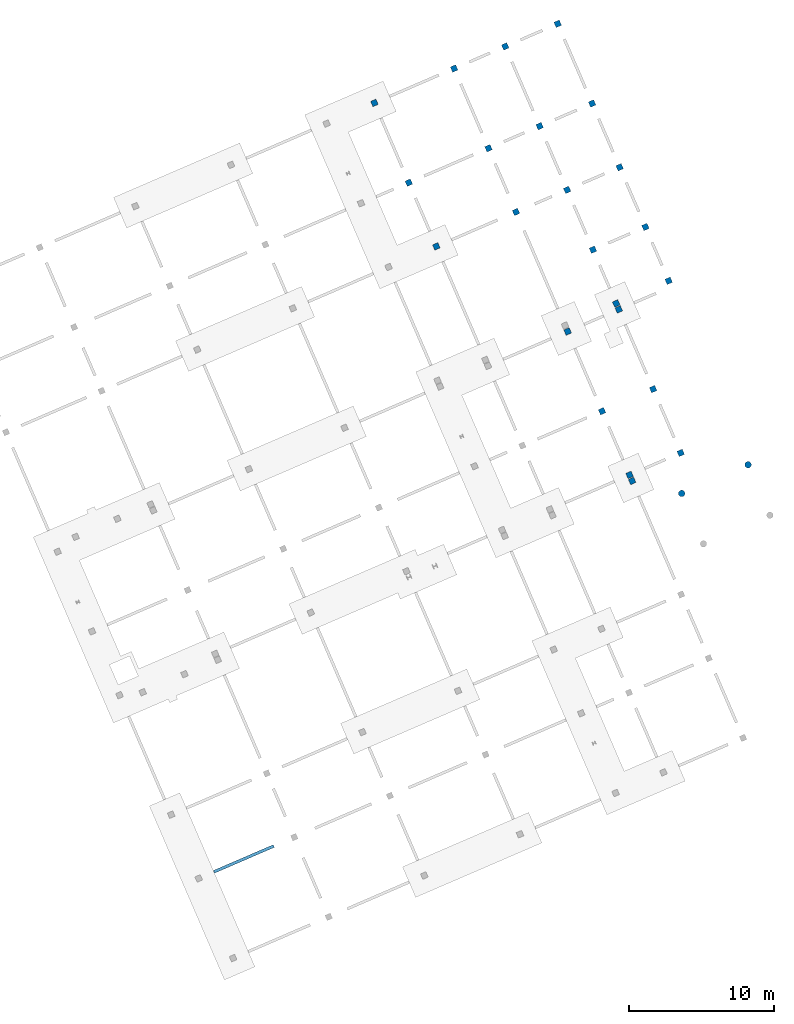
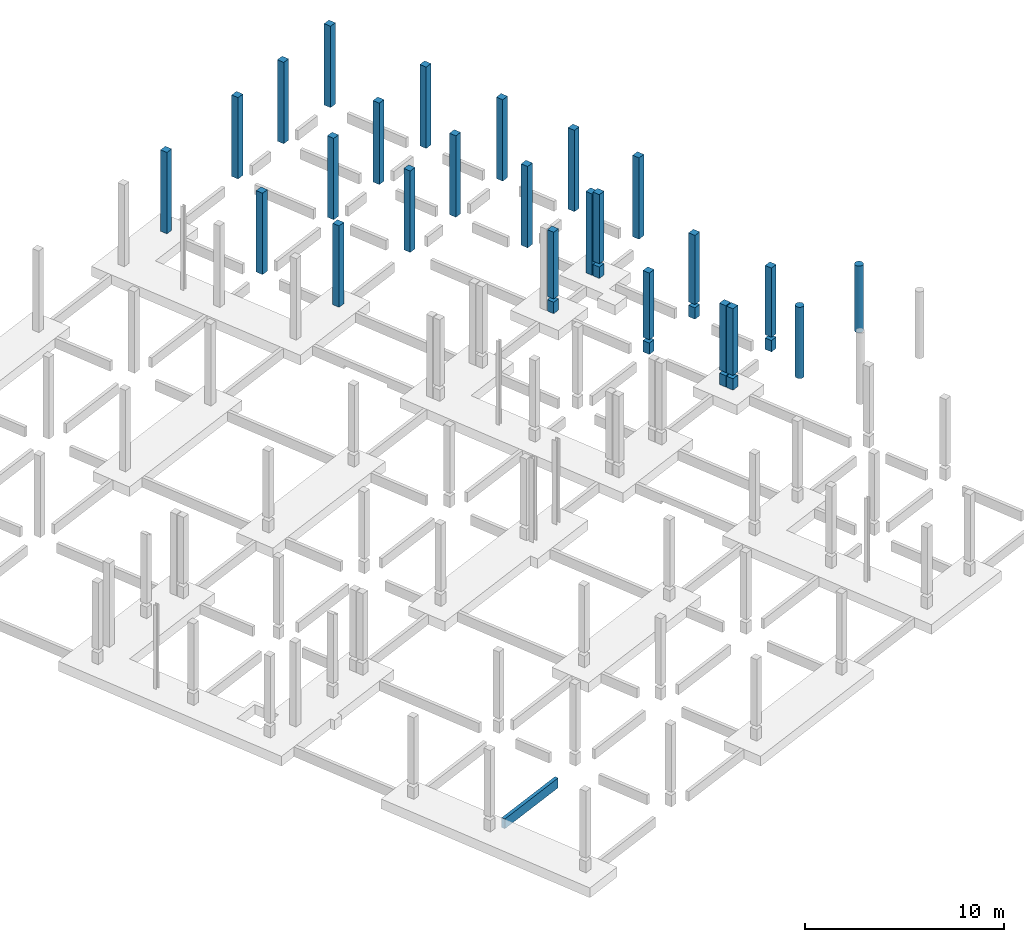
# One storey, part 7 of 11: 25 columns, 1 beam.
"""IFC4 building model written with IfcOpenShell, lengths in metres."""

from ifc_helpers import new_model, entity, si_unit, converted_unit, derived_unit, direction, frame, origin, place, context, subcontext, project, spatial, arc, indexed_curve, outline, extrude, source, transform, mapped, material, type_object, type_shapes, element, save


model = new_model("IFC4")

# Units and contexts
model_context = context("Model", 3, precision=1e-05, world=origin(), true_north=direction((6.12323399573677e-17, 1.0)))
body_context = subcontext(model_context, "Body", "Model", "MODEL_VIEW")
ifc_project = project(units=[si_unit("LENGTHUNIT", "METRE"), si_unit("AREAUNIT", "SQUARE_METRE"), si_unit("VOLUMEUNIT", "CUBIC_METRE"), converted_unit("PLANEANGLEUNIT", "DEGREE", entity("IfcPlaneAngleMeasure", 0.0174532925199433), si_unit("PLANEANGLEUNIT", "RADIAN"), dimensions=[0, 0, 0, 0, 0, 0, 0]), si_unit("MASSUNIT", "GRAM", prefix="KILO"), derived_unit("MOMENTOFINERTIAUNIT", [(si_unit("LENGTHUNIT", "METRE"), 4)]), derived_unit("LINEARFORCEUNIT", [(si_unit("MASSUNIT", "GRAM", prefix="KILO"), 1), (si_unit("TIMEUNIT", "SECOND"), -2)]), derived_unit("WARPINGCONSTANTUNIT", [(si_unit("LENGTHUNIT", "METRE"), 6)]), derived_unit("THERMALTRANSMITTANCEUNIT", [(si_unit("MASSUNIT", "GRAM", prefix="KILO"), 1), (si_unit("THERMODYNAMICTEMPERATUREUNIT", "KELVIN"), -1), (si_unit("TIMEUNIT", "SECOND"), -3)]), derived_unit("USERDEFINED", [(si_unit("MASSUNIT", "GRAM", prefix="KILO"), 1), (si_unit("TIMEUNIT", "SECOND"), -2), (si_unit("THERMODYNAMICTEMPERATUREUNIT", "KELVIN"), -1)]), derived_unit("THERMALRESISTANCEUNIT", [(si_unit("MASSUNIT", "GRAM", prefix="KILO"), -1), (si_unit("TIMEUNIT", "SECOND"), 3), (si_unit("THERMODYNAMICTEMPERATUREUNIT", "KELVIN"), 1)])], contexts=[model_context])

# Site, building, storey
site_placement = place(None, origin())
site = spatial("IfcSite", under=ifc_project, at=site_placement, Name="Default", CompositionType="ELEMENT")
building_placement = place(site_placement, frame((12.6613425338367, -82.5732315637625, 317.15), z_axis=(0.0, 0.0, 1.0), x_axis=(-0.396377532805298, 0.918087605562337, 0.0)))
building = spatial("IfcBuilding", under=site, at=building_placement, Name="CESFAM Coyhaique", CompositionType="ELEMENT")
storey_placement = place(building_placement, frame((0.0, 0.0, -0.950000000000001)))
storey = spatial("IfcBuildingStorey", under=building, at=storey_placement, Name="d_Fundaciones", CompositionType="ELEMENT", Elevation=-0.950000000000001)

# Columns
ifc_material = material(Name="HA")
column_type_1 = type_object("IfcColumnType", Name="M_Concrete-Square-Column:400 x 400mm", PredefinedType="COLUMN", material=ifc_material)
shared_shape_1 = source(origin(), body_context, "Body", "SweptSolid", [
    extrude(outline(indexed_curve([(-0.199999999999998, -0.200000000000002), (0.200000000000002, -0.200000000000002), (0.200000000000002, 0.199999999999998), (-0.199999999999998, 0.199999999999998), (-0.199999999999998, -0.200000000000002)], self_intersect=False)), frame((23.9688534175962, -21.197149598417, -0.950000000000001), z_axis=(0.0, 0.0, 1.0), x_axis=(-1.0, 0.0, 0.0)), (0.0, 0.0, 1.0), 0.7),
    extrude(outline(indexed_curve([(-0.199999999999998, -0.200000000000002), (0.200000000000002, -0.200000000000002), (0.200000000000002, 0.199999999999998), (-0.199999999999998, 0.199999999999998), (-0.199999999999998, -0.200000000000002)], self_intersect=False)), frame((23.9688534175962, -21.197149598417, -0.0500000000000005), z_axis=(0.0, 0.0, 1.0), x_axis=(-1.0, 0.0, 0.0)), (0.0, 0.0, 1.0), 4.10000000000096),
])
type_shapes(column_type_1, [shared_shape_1])
column_1_placement = place(storey_placement, frame((0.0, 0.0, 0.950000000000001)))
element("IfcColumn", 1, at=column_1_placement, inside=storey, type_object=column_type_1, Name="M_Concrete-Square-Column:400 x 400mm", ObjectType="M_Concrete-Square-Column:400 x 400mm", PredefinedType="COLUMN", context=body_context, shape_type="MappedRepresentation", body=[
    mapped(shared_shape_1, transform((0.0, 0.0, 0.0), scale=1.0)),
])
column_type_2 = type_object("IfcColumnType", Name="M_Concrete-Square-Column:400 x 400mm", PredefinedType="COLUMN", material=ifc_material)
shared_shape_2 = source(origin(), body_context, "Body", "SweptSolid", [
    extrude(outline(indexed_curve([(-0.200000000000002, -0.200000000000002), (0.199999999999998, -0.200000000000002), (0.199999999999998, 0.199999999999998), (-0.200000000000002, 0.199999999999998), (-0.200000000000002, -0.200000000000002)], self_intersect=False)), frame((28.7688534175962, -21.197149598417, -0.950000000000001), z_axis=(0.0, 0.0, 1.0), x_axis=(-1.0, 0.0, 0.0)), (0.0, 0.0, 1.0), 0.7),
    extrude(outline(indexed_curve([(-0.200000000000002, -0.200000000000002), (0.199999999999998, -0.200000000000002), (0.199999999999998, 0.199999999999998), (-0.200000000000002, 0.199999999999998), (-0.200000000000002, -0.200000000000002)], self_intersect=False)), frame((28.7688534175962, -21.197149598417, -0.0500000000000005), z_axis=(0.0, 0.0, 1.0), x_axis=(-1.0, 0.0, 0.0)), (0.0, 0.0, 1.0), 4.10000000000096),
])
type_shapes(column_type_2, [shared_shape_2])
column_2_placement = place(storey_placement, frame((0.0, 0.0, 0.950000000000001)))
element("IfcColumn", 2, at=column_2_placement, inside=storey, type_object=column_type_2, Name="M_Concrete-Square-Column:400 x 400mm", ObjectType="M_Concrete-Square-Column:400 x 400mm", PredefinedType="COLUMN", context=body_context, shape_type="MappedRepresentation", body=[
    mapped(shared_shape_2, transform((0.0, 0.0, 0.0), scale=1.0)),
])
column_type_3 = type_object("IfcColumnType", Name="M_Concrete-Square-Column:400 x 400mm", PredefinedType="COLUMN", material=ifc_material)
shared_shape_3 = source(origin(), body_context, "Body", "SweptSolid", [
    extrude(outline(indexed_curve([(-0.199999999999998, -0.200000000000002), (0.200000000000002, -0.200000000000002), (0.200000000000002, 0.199999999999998), (-0.199999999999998, 0.199999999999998), (-0.199999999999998, -0.200000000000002)], self_intersect=False)), frame((34.7688534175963, -21.197149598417, -0.950000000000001), z_axis=(0.0, 0.0, 1.0), x_axis=(-1.0, 0.0, 0.0)), (0.0, 0.0, 1.0), 0.7),
    extrude(outline(indexed_curve([(-0.199999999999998, -0.200000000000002), (0.200000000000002, -0.200000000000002), (0.200000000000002, 0.199999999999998), (-0.199999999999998, 0.199999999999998), (-0.199999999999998, -0.200000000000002)], self_intersect=False)), frame((34.7688534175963, -21.197149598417, -0.0500000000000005), z_axis=(0.0, 0.0, 1.0), x_axis=(-1.0, 0.0, 0.0)), (0.0, 0.0, 1.0), 4.10000000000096),
])
type_shapes(column_type_3, [shared_shape_3])
column_3_placement = place(storey_placement, frame((0.0, 0.0, 0.950000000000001)))
element("IfcColumn", 3, at=column_3_placement, inside=storey, type_object=column_type_3, Name="M_Concrete-Square-Column:400 x 400mm", ObjectType="M_Concrete-Square-Column:400 x 400mm", PredefinedType="COLUMN", context=body_context, shape_type="MappedRepresentation", body=[
    mapped(shared_shape_3, transform((0.0, 0.0, 0.0), scale=1.0)),
])
column_type_4 = type_object("IfcColumnType", Name="M_Concrete-Square-Column:400 x 400mm", PredefinedType="COLUMN", material=ifc_material)
shared_shape_4 = source(origin(), body_context, "Body", "SweptSolid", [
    extrude(outline(indexed_curve([(-0.199999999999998, -0.200000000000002), (0.199999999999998, -0.200000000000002), (0.199999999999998, 0.199999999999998), (-0.199999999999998, 0.199999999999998), (-0.199999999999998, -0.200000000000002)], self_intersect=False)), frame((43.7688534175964, -21.197149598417, -0.950000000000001), z_axis=(0.0, 0.0, 1.0), x_axis=(-1.0, 0.0, 0.0)), (0.0, 0.0, 1.0), 5.00000000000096),
])
type_shapes(column_type_4, [shared_shape_4])
column_4_placement = place(storey_placement, frame((0.0, 0.0, 0.950000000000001)))
element("IfcColumn", 4, at=column_4_placement, inside=storey, type_object=column_type_4, Name="M_Concrete-Square-Column:400 x 400mm", ObjectType="M_Concrete-Square-Column:400 x 400mm", PredefinedType="COLUMN", context=body_context, shape_type="MappedRepresentation", body=[
    mapped(shared_shape_4, transform((0.0, 0.0, 0.0), scale=1.0)),
])
column_type_5 = type_object("IfcColumnType", Name="M_Concrete-Square-Column:400 x 400mm", PredefinedType="COLUMN", material=ifc_material)
shared_shape_5 = source(origin(), body_context, "Body", "SweptSolid", [
    extrude(outline(indexed_curve([(-0.199999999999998, -0.200000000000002), (0.199999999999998, -0.200000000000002), (0.199999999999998, 0.199999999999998), (-0.199999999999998, 0.199999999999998), (-0.199999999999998, -0.200000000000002)], self_intersect=False)), frame((48.5688534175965, -21.1971495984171, -0.950000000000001), z_axis=(0.0, 0.0, 1.0), x_axis=(-1.0, 0.0, 0.0)), (0.0, 0.0, 1.0), 5.00000000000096),
])
type_shapes(column_type_5, [shared_shape_5])
column_5_placement = place(storey_placement, frame((0.0, 0.0, 0.950000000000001)))
element("IfcColumn", 5, at=column_5_placement, inside=storey, type_object=column_type_5, Name="M_Concrete-Square-Column:400 x 400mm", ObjectType="M_Concrete-Square-Column:400 x 400mm", PredefinedType="COLUMN", context=body_context, shape_type="MappedRepresentation", body=[
    mapped(shared_shape_5, transform((0.0, 0.0, 0.0), scale=1.0)),
])
column_type_6 = type_object("IfcColumnType", Name="M_Concrete-Square-Column:400 x 400mm", PredefinedType="COLUMN", material=ifc_material)
shared_shape_6 = source(origin(), body_context, "Body", "SweptSolid", [
    extrude(outline(indexed_curve([(-0.199999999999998, -0.200000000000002), (0.199999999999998, -0.200000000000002), (0.199999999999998, 0.199999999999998), (-0.199999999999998, 0.199999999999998), (-0.199999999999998, -0.200000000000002)], self_intersect=False)), frame((54.5688534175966, -21.1971495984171, -0.950000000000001), z_axis=(0.0, 0.0, 1.0), x_axis=(-1.0, 0.0, 0.0)), (0.0, 0.0, 1.0), 5.00000000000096),
])
type_shapes(column_type_6, [shared_shape_6])
column_6_placement = place(storey_placement, frame((0.0, 0.0, 0.950000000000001)))
element("IfcColumn", 6, at=column_6_placement, inside=storey, type_object=column_type_6, Name="M_Concrete-Square-Column:400 x 400mm", ObjectType="M_Concrete-Square-Column:400 x 400mm", PredefinedType="COLUMN", context=body_context, shape_type="MappedRepresentation", body=[
    mapped(shared_shape_6, transform((0.0, 0.0, 0.0), scale=1.0)),
])
column_type_7 = type_object("IfcColumnType", Name="M_Concrete-Square-Column:400 x 400mm", PredefinedType="COLUMN", material=ifc_material)
shared_shape_7 = source(origin(), body_context, "Body", "SweptSolid", [
    extrude(outline(indexed_curve([(-0.199999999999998, -0.199999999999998), (0.199999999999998, -0.199999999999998), (0.199999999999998, 0.200000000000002), (-0.199999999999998, 0.200000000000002), (-0.199999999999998, -0.199999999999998)], self_intersect=False)), frame((43.7688534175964, -28.997149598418, -0.950000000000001), z_axis=(0.0, 0.0, 1.0), x_axis=(-1.0, 0.0, 0.0)), (0.0, 0.0, 1.0), 5.00000000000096),
])
type_shapes(column_type_7, [shared_shape_7])
column_7_placement = place(storey_placement, frame((0.0, 0.0, 0.950000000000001)))
element("IfcColumn", 7, at=column_7_placement, inside=storey, type_object=column_type_7, Name="M_Concrete-Square-Column:400 x 400mm", ObjectType="M_Concrete-Square-Column:400 x 400mm", PredefinedType="COLUMN", context=body_context, shape_type="MappedRepresentation", body=[
    mapped(shared_shape_7, transform((0.0, 0.0, 0.0), scale=1.0)),
])
column_type_8 = type_object("IfcColumnType", Name="M_Concrete-Square-Column:400 x 400mm", PredefinedType="COLUMN", material=ifc_material)
shared_shape_8 = source(origin(), body_context, "Body", "SweptSolid", [
    extrude(outline(indexed_curve([(-0.199999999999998, -0.199999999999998), (0.199999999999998, -0.199999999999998), (0.199999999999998, 0.200000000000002), (-0.199999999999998, 0.200000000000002), (-0.199999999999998, -0.199999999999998)], self_intersect=False)), frame((48.5688534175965, -28.9971495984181, -0.950000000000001), z_axis=(0.0, 0.0, 1.0), x_axis=(-1.0, 0.0, 0.0)), (0.0, 0.0, 1.0), 5.00000000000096),
])
type_shapes(column_type_8, [shared_shape_8])
column_8_placement = place(storey_placement, frame((0.0, 0.0, 0.950000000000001)))
element("IfcColumn", 8, at=column_8_placement, inside=storey, type_object=column_type_8, Name="M_Concrete-Square-Column:400 x 400mm", ObjectType="M_Concrete-Square-Column:400 x 400mm", PredefinedType="COLUMN", context=body_context, shape_type="MappedRepresentation", body=[
    mapped(shared_shape_8, transform((0.0, 0.0, 0.0), scale=1.0)),
])
column_type_9 = type_object("IfcColumnType", Name="M_Concrete-Square-Column:400 x 400mm", PredefinedType="COLUMN", material=ifc_material)
shared_shape_9 = source(origin(), body_context, "Body", "SweptSolid", [
    extrude(outline(indexed_curve([(-0.199999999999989, -0.199999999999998), (0.200000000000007, -0.199999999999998), (0.200000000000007, 0.200000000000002), (-0.199999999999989, 0.200000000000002), (-0.199999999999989, -0.199999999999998)], self_intersect=False)), frame((54.5688534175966, -28.9971495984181, -0.950000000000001), z_axis=(0.0, 0.0, 1.0), x_axis=(-1.0, 0.0, 0.0)), (0.0, 0.0, 1.0), 5.00000000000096),
])
type_shapes(column_type_9, [shared_shape_9])
column_9_placement = place(storey_placement, frame((0.0, 0.0, 0.950000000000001)))
element("IfcColumn", 9, at=column_9_placement, inside=storey, type_object=column_type_9, Name="M_Concrete-Square-Column:400 x 400mm", ObjectType="M_Concrete-Square-Column:400 x 400mm", PredefinedType="COLUMN", context=body_context, shape_type="MappedRepresentation", body=[
    mapped(shared_shape_9, transform((0.0, 0.0, 0.0), scale=1.0)),
])
column_type_10 = type_object("IfcColumnType", Name="M_Concrete-Square-Column:400 x 400mm", PredefinedType="COLUMN", material=ifc_material)
shared_shape_10 = source(origin(), body_context, "Body", "SweptSolid", [
    extrude(outline(indexed_curve([(-0.199999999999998, -0.2), (0.199999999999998, -0.2), (0.199999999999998, 0.2), (-0.199999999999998, 0.2), (-0.199999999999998, -0.2)], self_intersect=False)), frame((43.7688534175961, -15.1971495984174, -0.950000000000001), z_axis=(0.0, 0.0, 1.0), x_axis=(-1.0, 0.0, 0.0)), (0.0, 0.0, 1.0), 5.00000000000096),
])
type_shapes(column_type_10, [shared_shape_10])
column_10_placement = place(storey_placement, frame((0.0, 0.0, 0.950000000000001)))
element("IfcColumn", 10, at=column_10_placement, inside=storey, type_object=column_type_10, Name="M_Concrete-Square-Column:400 x 400mm", ObjectType="M_Concrete-Square-Column:400 x 400mm", PredefinedType="COLUMN", context=body_context, shape_type="MappedRepresentation", body=[
    mapped(shared_shape_10, transform((0.0, 0.0, 0.0), scale=1.0)),
])
column_type_11 = type_object("IfcColumnType", Name="M_Concrete-Square-Column:400 x 400mm", PredefinedType="COLUMN", material=ifc_material)
shared_shape_11 = source(origin(), body_context, "Body", "SweptSolid", [
    extrude(outline(indexed_curve([(-0.199999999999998, -0.2), (0.199999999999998, -0.2), (0.199999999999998, 0.2), (-0.199999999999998, 0.2), (-0.199999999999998, -0.2)], self_intersect=False)), frame((48.5688534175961, -15.1971495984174, -0.950000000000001), z_axis=(0.0, 0.0, 1.0), x_axis=(-1.0, 0.0, 0.0)), (0.0, 0.0, 1.0), 5.00000000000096),
])
type_shapes(column_type_11, [shared_shape_11])
column_11_placement = place(storey_placement, frame((0.0, 0.0, 0.950000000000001)))
element("IfcColumn", 11, at=column_11_placement, inside=storey, type_object=column_type_11, Name="M_Concrete-Square-Column:400 x 400mm", ObjectType="M_Concrete-Square-Column:400 x 400mm", PredefinedType="COLUMN", context=body_context, shape_type="MappedRepresentation", body=[
    mapped(shared_shape_11, transform((0.0, 0.0, 0.0), scale=1.0)),
])
column_type_12 = type_object("IfcColumnType", Name="M_Concrete-Square-Column:400 x 400mm", PredefinedType="COLUMN", material=ifc_material)
shared_shape_12 = source(origin(), body_context, "Body", "SweptSolid", [
    extrude(outline(indexed_curve([(-0.199999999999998, -0.2), (0.199999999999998, -0.2), (0.199999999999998, 0.2), (-0.199999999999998, 0.2), (-0.199999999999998, -0.2)], self_intersect=False)), frame((54.5688534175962, -15.1971495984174, -0.950000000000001), z_axis=(0.0, 0.0, 1.0), x_axis=(-1.0, 0.0, 0.0)), (0.0, 0.0, 1.0), 5.00000000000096),
])
type_shapes(column_type_12, [shared_shape_12])
column_12_placement = place(storey_placement, frame((0.0, 0.0, 0.950000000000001)))
element("IfcColumn", 12, at=column_12_placement, inside=storey, type_object=column_type_12, Name="M_Concrete-Square-Column:400 x 400mm", ObjectType="M_Concrete-Square-Column:400 x 400mm", PredefinedType="COLUMN", context=body_context, shape_type="MappedRepresentation", body=[
    mapped(shared_shape_12, transform((0.0, 0.0, 0.0), scale=1.0)),
])
column_type_13 = type_object("IfcColumnType", Name="M_Concrete-Square-Column:400 x 400mm", PredefinedType="COLUMN", material=ifc_material)
shared_shape_13 = source(origin(), body_context, "Body", "SweptSolid", [
    extrude(outline(indexed_curve([(-0.200000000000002, -0.200000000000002), (0.199999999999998, -0.200000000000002), (0.199999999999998, 0.199999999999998), (-0.200000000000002, 0.199999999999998), (-0.200000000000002, -0.200000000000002)], self_intersect=False)), frame((28.7688534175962, -25.0471495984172, -0.950000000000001), z_axis=(0.0, 0.0, 1.0), x_axis=(-1.0, 0.0, 0.0)), (0.0, 0.0, 1.0), 0.7),
    extrude(outline(indexed_curve([(-0.200000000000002, -0.200000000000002), (0.199999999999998, -0.199999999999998), (0.199999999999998, 0.199999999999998), (-0.200000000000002, 0.199999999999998), (-0.200000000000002, -0.200000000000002)], self_intersect=False)), frame((28.7688534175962, -25.0471495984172, -0.0500000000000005), z_axis=(0.0, 0.0, 1.0), x_axis=(-1.0, 0.0, 0.0)), (0.0, 0.0, 1.0), 4.25000000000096),
])
type_shapes(column_type_13, [shared_shape_13])
column_13_placement = place(storey_placement, frame((0.0, 0.0, 0.950000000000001)))
element("IfcColumn", 13, at=column_13_placement, inside=storey, type_object=column_type_13, Name="M_Concrete-Square-Column:400 x 400mm", ObjectType="M_Concrete-Square-Column:400 x 400mm", PredefinedType="COLUMN", context=body_context, shape_type="MappedRepresentation", body=[
    mapped(shared_shape_13, transform((0.0, 0.0, 0.0), scale=1.0)),
])
column_type_14 = type_object("IfcColumnType", Name="M_Concrete-Square-Column:400 x 400mm", PredefinedType="COLUMN", material=ifc_material)
shared_shape_14 = source(origin(), body_context, "Body", "SweptSolid", [
    extrude(outline(indexed_curve([(-0.199999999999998, -0.200000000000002), (0.200000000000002, -0.200000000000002), (0.200000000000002, 0.199999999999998), (-0.199999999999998, 0.199999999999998), (-0.199999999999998, -0.200000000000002)], self_intersect=False)), frame((23.9688534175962, -25.0471495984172, -0.950000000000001), z_axis=(0.0, 0.0, 1.0), x_axis=(-1.0, 0.0, 0.0)), (0.0, 0.0, 1.0), 0.7),
    extrude(outline(indexed_curve([(-0.199999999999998, -0.200000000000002), (0.200000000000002, -0.199999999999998), (0.200000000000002, 0.199999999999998), (-0.199999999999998, 0.199999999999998), (-0.199999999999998, -0.200000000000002)], self_intersect=False)), frame((23.9688534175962, -25.0471495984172, -0.0500000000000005), z_axis=(0.0, 0.0, 1.0), x_axis=(-1.0, 0.0, 0.0)), (0.0, 0.0, 1.0), 4.25000000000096),
])
type_shapes(column_type_14, [shared_shape_14])
column_14_placement = place(storey_placement, frame((0.0, 0.0, 0.950000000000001)))
element("IfcColumn", 14, at=column_14_placement, inside=storey, type_object=column_type_14, Name="M_Concrete-Square-Column:400 x 400mm", ObjectType="M_Concrete-Square-Column:400 x 400mm", PredefinedType="COLUMN", context=body_context, shape_type="MappedRepresentation", body=[
    mapped(shared_shape_14, transform((0.0, 0.0, 0.0), scale=1.0)),
])
column_type_15 = type_object("IfcColumnType", Name="M_Concrete-Square-Column:400 x 400mm", PredefinedType="COLUMN", material=ifc_material)
shared_shape_15 = source(origin(), body_context, "Body", "SweptSolid", [
    extrude(outline(indexed_curve([(-0.199999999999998, -0.200000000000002), (0.200000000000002, -0.200000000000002), (0.200000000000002, 0.199999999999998), (-0.199999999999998, 0.199999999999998), (-0.199999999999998, -0.200000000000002)], self_intersect=False)), frame((34.7688534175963, -25.0471495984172, -0.950000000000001), z_axis=(0.0, 0.0, 1.0), x_axis=(-1.0, 0.0, 0.0)), (0.0, 0.0, 1.0), 0.7),
    extrude(outline(indexed_curve([(-0.199999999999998, -0.200000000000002), (0.200000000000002, -0.199999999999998), (0.200000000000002, 0.199999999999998), (-0.199999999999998, 0.199999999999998), (-0.199999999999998, -0.200000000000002)], self_intersect=False)), frame((34.7688534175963, -25.0471495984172, -0.0500000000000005), z_axis=(0.0, 0.0, 1.0), x_axis=(-1.0, 0.0, 0.0)), (0.0, 0.0, 1.0), 4.25000000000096),
])
type_shapes(column_type_15, [shared_shape_15])
column_15_placement = place(storey_placement, frame((0.0, 0.0, 0.950000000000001)))
element("IfcColumn", 15, at=column_15_placement, inside=storey, type_object=column_type_15, Name="M_Concrete-Square-Column:400 x 400mm", ObjectType="M_Concrete-Square-Column:400 x 400mm", PredefinedType="COLUMN", context=body_context, shape_type="MappedRepresentation", body=[
    mapped(shared_shape_15, transform((0.0, 0.0, 0.0), scale=1.0)),
])
column_type_16 = type_object("IfcColumnType", Name="M_Concrete-Square-Column:400 x 400mm", PredefinedType="COLUMN", material=ifc_material)
shared_shape_16 = source(origin(), body_context, "Body", "SweptSolid", [
    extrude(outline(indexed_curve([(-0.199999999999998, -0.200000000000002), (0.199999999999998, -0.200000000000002), (0.199999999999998, 0.199999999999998), (-0.199999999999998, 0.199999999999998), (-0.199999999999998, -0.200000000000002)], self_intersect=False)), frame((43.7688534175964, -25.0471495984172, -0.950000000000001), z_axis=(0.0, 0.0, 1.0), x_axis=(-1.0, 0.0, 0.0)), (0.0, 0.0, 1.0), 5.00000000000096),
])
type_shapes(column_type_16, [shared_shape_16])
column_16_placement = place(storey_placement, frame((0.0, 0.0, 0.950000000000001)))
element("IfcColumn", 16, at=column_16_placement, inside=storey, type_object=column_type_16, Name="M_Concrete-Square-Column:400 x 400mm", ObjectType="M_Concrete-Square-Column:400 x 400mm", PredefinedType="COLUMN", context=body_context, shape_type="MappedRepresentation", body=[
    mapped(shared_shape_16, transform((0.0, 0.0, 0.0), scale=1.0)),
])
column_type_17 = type_object("IfcColumnType", Name="M_Concrete-Square-Column:400 x 400mm", PredefinedType="COLUMN", material=ifc_material)
shared_shape_17 = source(origin(), body_context, "Body", "SweptSolid", [
    extrude(outline(indexed_curve([(-0.199999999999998, -0.200000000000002), (0.199999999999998, -0.200000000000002), (0.199999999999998, 0.199999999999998), (-0.199999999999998, 0.199999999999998), (-0.199999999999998, -0.200000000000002)], self_intersect=False)), frame((48.5688534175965, -25.0471495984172, -0.950000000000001), z_axis=(0.0, 0.0, 1.0), x_axis=(-1.0, 0.0, 0.0)), (0.0, 0.0, 1.0), 5.00000000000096),
])
type_shapes(column_type_17, [shared_shape_17])
column_17_placement = place(storey_placement, frame((0.0, 0.0, 0.950000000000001)))
element("IfcColumn", 17, at=column_17_placement, inside=storey, type_object=column_type_17, Name="M_Concrete-Square-Column:400 x 400mm", ObjectType="M_Concrete-Square-Column:400 x 400mm", PredefinedType="COLUMN", context=body_context, shape_type="MappedRepresentation", body=[
    mapped(shared_shape_17, transform((0.0, 0.0, 0.0), scale=1.0)),
])
column_type_18 = type_object("IfcColumnType", Name="M_Concrete-Square-Column:400 x 400mm", PredefinedType="COLUMN", material=ifc_material)
shared_shape_18 = source(origin(), body_context, "Body", "SweptSolid", [
    extrude(outline(indexed_curve([(-0.199999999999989, -0.200000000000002), (0.200000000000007, -0.200000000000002), (0.200000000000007, 0.199999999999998), (-0.199999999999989, 0.199999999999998), (-0.199999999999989, -0.200000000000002)], self_intersect=False)), frame((54.5688534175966, -25.0471495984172, -0.950000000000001), z_axis=(0.0, 0.0, 1.0), x_axis=(-1.0, 0.0, 0.0)), (0.0, 0.0, 1.0), 5.00000000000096),
])
type_shapes(column_type_18, [shared_shape_18])
column_18_placement = place(storey_placement, frame((0.0, 0.0, 0.950000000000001)))
element("IfcColumn", 18, at=column_18_placement, inside=storey, type_object=column_type_18, Name="M_Concrete-Square-Column:400 x 400mm", ObjectType="M_Concrete-Square-Column:400 x 400mm", PredefinedType="COLUMN", context=body_context, shape_type="MappedRepresentation", body=[
    mapped(shared_shape_18, transform((0.0, 0.0, 0.0), scale=1.0)),
])
column_type_19 = type_object("IfcColumnType", Name="M_Concrete-Square-Column:400 x 400mm", PredefinedType="COLUMN", material=ifc_material)
shared_shape_19 = source(origin(), body_context, "Body", "SweptSolid", [
    extrude(outline(indexed_curve([(-0.199999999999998, -0.200000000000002), (0.200000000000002, -0.200000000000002), (0.200000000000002, 0.199999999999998), (-0.199999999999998, 0.199999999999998), (-0.199999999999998, -0.200000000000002)], self_intersect=False)), frame((35.2188534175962, -28.997149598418, -0.950000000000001), z_axis=(0.0, 0.0, 1.0), x_axis=(-1.0, 0.0, 0.0)), (0.0, 0.0, 1.0), 5.00000000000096),
])
type_shapes(column_type_19, [shared_shape_19])
column_19_placement = place(storey_placement, frame((0.0, 0.0, 0.950000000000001)))
element("IfcColumn", 19, at=column_19_placement, inside=storey, type_object=column_type_19, Name="M_Concrete-Square-Column:400 x 400mm", ObjectType="M_Concrete-Square-Column:400 x 400mm", PredefinedType="COLUMN", context=body_context, shape_type="MappedRepresentation", body=[
    mapped(shared_shape_19, transform((0.0, 0.0, 0.0), scale=1.0)),
])
column_type_20 = type_object("IfcColumnType", Name="M_Concrete-Square-Column:400 x 400mm", PredefinedType="COLUMN", material=ifc_material)
shared_shape_20 = source(origin(), body_context, "Body", "SweptSolid", [
    extrude(outline(indexed_curve([(-0.200000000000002, -0.200000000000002), (0.199999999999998, -0.200000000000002), (0.199999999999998, 0.199999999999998), (-0.200000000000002, 0.199999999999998), (-0.200000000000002, -0.200000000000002)], self_intersect=False)), frame((35.2188534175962, -25.0471495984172, -0.950000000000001), z_axis=(0.0, 0.0, 1.0), x_axis=(-1.0, 0.0, 0.0)), (0.0, 0.0, 1.0), 5.00000000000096),
])
type_shapes(column_type_20, [shared_shape_20])
column_20_placement = place(storey_placement, frame((0.0, 0.0, 0.950000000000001)))
element("IfcColumn", 20, at=column_20_placement, inside=storey, type_object=column_type_20, Name="M_Concrete-Square-Column:400 x 400mm", ObjectType="M_Concrete-Square-Column:400 x 400mm", PredefinedType="COLUMN", context=body_context, shape_type="MappedRepresentation", body=[
    mapped(shared_shape_20, transform((0.0, 0.0, 0.0), scale=1.0)),
])
column_type_21 = type_object("IfcColumnType", Name="M_Concrete-Square-Column:400 x 400mm", PredefinedType="COLUMN", material=ifc_material)
shared_shape_21 = source(origin(), body_context, "Body", "SweptSolid", [
    extrude(outline(indexed_curve([(-0.199999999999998, -0.199999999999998), (0.199999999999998, -0.199999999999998), (0.199999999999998, 0.200000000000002), (-0.199999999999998, 0.200000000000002), (-0.199999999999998, -0.199999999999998)], self_intersect=False)), frame((39.2688534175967, -28.997149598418, -0.950000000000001), z_axis=(0.0, 0.0, 1.0), x_axis=(-1.0, 0.0, 0.0)), (0.0, 0.0, 1.0), 5.00000000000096),
])
type_shapes(column_type_21, [shared_shape_21])
column_21_placement = place(storey_placement, frame((0.0, 0.0, 0.950000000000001)))
element("IfcColumn", 21, at=column_21_placement, inside=storey, type_object=column_type_21, Name="M_Concrete-Square-Column:400 x 400mm", ObjectType="M_Concrete-Square-Column:400 x 400mm", PredefinedType="COLUMN", context=body_context, shape_type="MappedRepresentation", body=[
    mapped(shared_shape_21, transform((0.0, 0.0, 0.0), scale=1.0)),
])
column_type_22 = type_object("IfcColumnType", Name="M_Concrete-Square-Column:400 x 400mm", PredefinedType="COLUMN", material=ifc_material)
shared_shape_22 = source(origin(), body_context, "Body", "SweptSolid", [
    extrude(outline(indexed_curve([(-0.199999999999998, -0.200000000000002), (0.199999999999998, -0.200000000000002), (0.199999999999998, 0.199999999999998), (-0.199999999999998, 0.199999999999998), (-0.199999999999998, -0.200000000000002)], self_intersect=False)), frame((39.2688534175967, -25.0471495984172, -0.950000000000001), z_axis=(0.0, 0.0, 1.0), x_axis=(-1.0, 0.0, 0.0)), (0.0, 0.0, 1.0), 5.00000000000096),
])
type_shapes(column_type_22, [shared_shape_22])
column_22_placement = place(storey_placement, frame((0.0, 0.0, 0.950000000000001)))
element("IfcColumn", 22, at=column_22_placement, inside=storey, type_object=column_type_22, Name="M_Concrete-Square-Column:400 x 400mm", ObjectType="M_Concrete-Square-Column:400 x 400mm", PredefinedType="COLUMN", context=body_context, shape_type="MappedRepresentation", body=[
    mapped(shared_shape_22, transform((0.0, 0.0, 0.0), scale=1.0)),
])
column_type_23 = type_object("IfcColumnType", Name="M_Concrete-Square-Column:400 x 400mm", PredefinedType="COLUMN", material=ifc_material)
shared_shape_23 = source(origin(), body_context, "Body", "SweptSolid", [
    extrude(outline(indexed_curve([(-0.200000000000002, -0.200000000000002), (0.199999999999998, -0.200000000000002), (0.199999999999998, 0.199999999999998), (-0.200000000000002, 0.199999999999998), (-0.200000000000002, -0.200000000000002)], self_intersect=False)), frame((23.5188534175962, -21.197149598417, -0.950000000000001), z_axis=(0.0, 0.0, 1.0), x_axis=(-1.0, 0.0, 0.0)), (0.0, 0.0, 1.0), 0.7),
    extrude(outline(indexed_curve([(-0.200000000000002, -0.200000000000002), (0.199999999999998, -0.199999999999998), (0.199999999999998, 0.199999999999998), (-0.200000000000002, 0.199999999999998), (-0.200000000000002, -0.200000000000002)], self_intersect=False)), frame((23.5188534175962, -21.197149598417, -0.0500000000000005), z_axis=(0.0, 0.0, 1.0), x_axis=(-1.0, 0.0, 0.0)), (0.0, 0.0, 1.0), 4.10000000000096),
])
type_shapes(column_type_23, [shared_shape_23])
column_23_placement = place(storey_placement, frame((0.0, 0.0, 0.950000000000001)))
element("IfcColumn", 23, at=column_23_placement, inside=storey, type_object=column_type_23, Name="M_Concrete-Square-Column:400 x 400mm", ObjectType="M_Concrete-Square-Column:400 x 400mm", PredefinedType="COLUMN", context=body_context, shape_type="MappedRepresentation", body=[
    mapped(shared_shape_23, transform((0.0, 0.0, 0.0), scale=1.0)),
])
column_type_24 = type_object("IfcColumnType", Name="M_Concrete-Round-Column:450mm", PredefinedType="COLUMN", material=ifc_material)
shared_shape_24 = source(origin(), body_context, "Body", "SweptSolid", [
    extrude(outline(indexed_curve([(-0.224999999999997, 0.0), (0.0, -0.224999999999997), (0.224999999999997, 0.0), (0.0, 0.224999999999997)], segments=[arc(1, 2, 3), arc(3, 4, 1)], self_intersect=False)), frame((21.3688534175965, -28.9973206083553, -0.950000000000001)), (0.0, 0.0, 1.0), 4.10000000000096),
])
type_shapes(column_type_24, [shared_shape_24])
column_24_placement = place(storey_placement, frame((0.0, 0.0, 0.950000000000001)))
element("IfcColumn", 24, at=column_24_placement, inside=storey, type_object=column_type_24, Name="M_Concrete-Round-Column:450mm", ObjectType="M_Concrete-Round-Column:450mm", PredefinedType="COLUMN", context=body_context, shape_type="MappedRepresentation", body=[
    mapped(shared_shape_24, transform((0.0, 0.0, 0.0), scale=1.0)),
])
column_type_25 = type_object("IfcColumnType", Name="M_Concrete-Round-Column:450mm", PredefinedType="COLUMN", material=ifc_material)
shared_shape_25 = source(origin(), body_context, "Body", "SweptSolid", [
    extrude(outline(indexed_curve([(-0.224999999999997, 0.0), (0.0, -0.224999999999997), (0.224999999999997, 0.0), (0.0, 0.224999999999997)], segments=[arc(1, 2, 3), arc(3, 4, 1)], self_intersect=False)), frame((21.3688534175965, -23.9973206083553, -0.950000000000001)), (0.0, 0.0, 1.0), 4.38000000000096),
])
type_shapes(column_type_25, [shared_shape_25])
column_25_placement = place(storey_placement, frame((0.0, 0.0, 0.950000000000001)))
element("IfcColumn", 25, at=column_25_placement, inside=storey, type_object=column_type_25, Name="M_Concrete-Round-Column:450mm", ObjectType="M_Concrete-Round-Column:450mm", PredefinedType="COLUMN", context=body_context, shape_type="MappedRepresentation", body=[
    mapped(shared_shape_25, transform((0.0, 0.0, 0.0), scale=1.0)),
])

# Beam
beam_type = type_object("IfcBeamType", Name="M_Concrete-Rectangular Beam:200 x 600mm", PredefinedType="BEAM", material=ifc_material)
shared_shape_26 = source(origin(), body_context, "Body", "SweptSolid", [
    extrude(outline(indexed_curve([(-0.100000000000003, -0.3), (0.100000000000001, -0.3), (0.100000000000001, 0.3), (-0.100000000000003, 0.3), (-0.100000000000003, -0.3)], self_intersect=False)), frame((10.1688534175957, 16.0528504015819, -1.25), z_axis=(0.0, -1.0, 0.0), x_axis=(-1.0, 0.0, 0.0)), (0.0, 0.0, 1.0), 4.49999999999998),
])
type_shapes(beam_type, [shared_shape_26])
beam_placement = place(storey_placement, frame((0.0, 0.0, 0.950000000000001)))
element("IfcBeam", 26, at=beam_placement, inside=storey, type_object=beam_type, Name="M_Concrete-Rectangular Beam:200 x 600mm", ObjectType="M_Concrete-Rectangular Beam:200 x 600mm", PredefinedType="BEAM", context=body_context, shape_type="MappedRepresentation", body=[
    mapped(shared_shape_26, transform((0.0, 0.0, 0.0), scale=1.0)),
])

save(model, "model.ifc")
